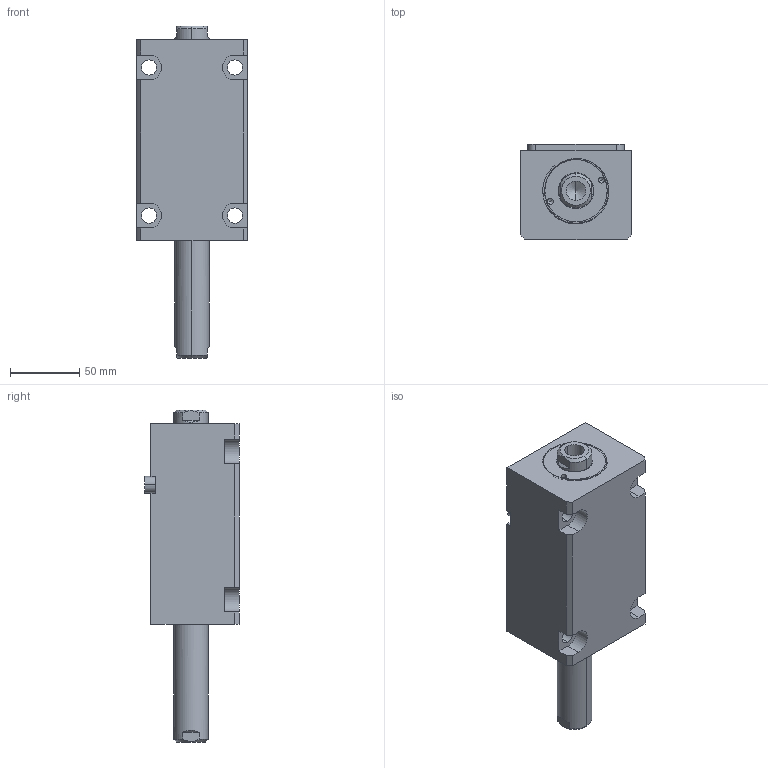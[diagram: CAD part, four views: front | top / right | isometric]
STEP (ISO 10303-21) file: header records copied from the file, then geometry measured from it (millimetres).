
FILE_DESCRIPTION (( 'STEP AP214' ), '1' );
FILE_NAME ('chtb-lwm40x75n_asm.STEP', '2018-05-30T08:25:20', ( 'Windows' ), ( 'Microsoft' ), 'SwSTEP 2.0', 'SolidWorks 2015', '' );
FILE_SCHEMA (( 'AUTOMOTIVE_DESIGN' ));
Length unit declared in the file: millimetre
Products named in the file (5): CHTB-SD40QG; CHTB-LA40PJ; CHTB-SW40X75NHSG; CHTB-LWM40X75NBT; chtb-lwm40x75n_asm
Assembly tree (4 placements, depth 2):
  chtb-lwm40x75n_asm
    CHTB-LWM40X75NBT
    CHTB-SW40X75NHSG
    CHTB-LA40PJ
    CHTB-SD40QG
Bounding box: 80 x 68.5 x 240 mm (x, y, z)
Volume: 690135.7 mm3; surface area: 114202.3 mm2
Topology: 4 solids, 4 shells, 166 faces, 450 edges, 296 vertices
Faces by surface type: cylinder 77, plane 50, bspline 14, cone 13, torus 12
Entity records: 10488 total; most frequent: CARTESIAN_POINT 6156, ORIENTED_EDGE 880, DIRECTION 821, EDGE_CURVE 440, AXIS2_PLACEMENT_3D 326, VERTEX_POINT 296, EDGE_LOOP 196, LINE 169
